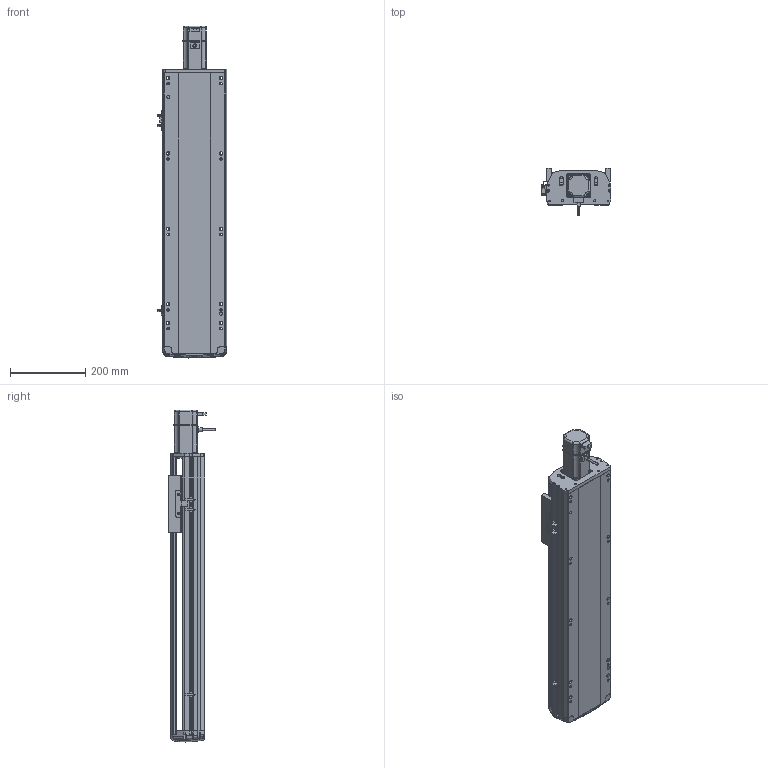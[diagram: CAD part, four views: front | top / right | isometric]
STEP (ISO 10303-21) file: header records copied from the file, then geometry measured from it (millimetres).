
FILE_DESCRIPTION (( 'STEP AP214' ), '1' );
FILE_NAME ('RTH17-XX-500-E-M40-C4（方程式）.STEP', '2025-10-24T05:40:07', ( '' ), ( '' ), 'SwSTEP 2.0', 'SolidWorks 2018', '' );
FILE_SCHEMA (( 'AUTOMOTIVE_DESIGN' ));
Length unit declared in the file: millimetre
Products named in the file (9): N_RTH-BL-012 感应片(外置)^RTH17-XX-XX-E-M40-C4（方程式）; N_RTH17-E-004丝杆螺母连接座^RTH17-XX-XX-E-M40-C4（方程式）; N_RTH17-E-007上盖^RTH17-XX-XX-E-M40-C4（方程式）; N_M40^RTH17-XX-XX-E-M40-C4（方程式）; N_OMRON EE-SX672 換覜ん^RTH17-XX-XX-E-M40-C4ㄗ源最宒ㄘ; RTH17-XX-500-E-M40-C4（方程式）; N_RTH17-E-008-P40电机板^RTH17-XX-XX-E-M40-C4（方程式）; N_RTH17-E-011底座^RTH17-XX-XX-E-M40-C4（方程式）; N_RTH17-GY-001P^RTH17-XX-XX-E-M40-C4（方程式）
Assembly tree (10 placements, depth 2):
  RTH17-XX-500-E-M40-C4（方程式）
    N_RTH17-E-011底座^RTH17-XX-XX-E-M40-C4（方程式）
    N_RTH17-E-007上盖^RTH17-XX-XX-E-M40-C4（方程式）
    N_RTH17-E-008-P40电机板^RTH17-XX-XX-E-M40-C4（方程式）
    N_OMRON EE-SX672 換覜ん^RTH17-XX-XX-E-M40-C4ㄗ源最宒ㄘ  x3
    N_RTH-BL-012 感应片(外置)^RTH17-XX-XX-E-M40-C4（方程式）
    N_RTH17-E-004丝杆螺母连接座^RTH17-XX-XX-E-M40-C4（方程式）
    N_RTH17-GY-001P^RTH17-XX-XX-E-M40-C4（方程式）
    N_M40^RTH17-XX-XX-E-M40-C4（方程式）
Bounding box: 183.5 x 127 x 880.69 mm (x, y, z)
Volume: 6375805 mm3; surface area: 878280 mm2
Topology: 9 solids, 11 shells, 1665 faces, 4657 edges, 3038 vertices
Faces by surface type: plane 827, cylinder 471, bspline 330, cone 28, torus 9
Entity records: 48797 total; most frequent: CARTESIAN_POINT 19524, ORIENTED_EDGE 6338, DIRECTION 5265, EDGE_CURVE 3173, VERTEX_POINT 2074, LINE 1777, VECTOR 1777, AXIS2_PLACEMENT_3D 1744
